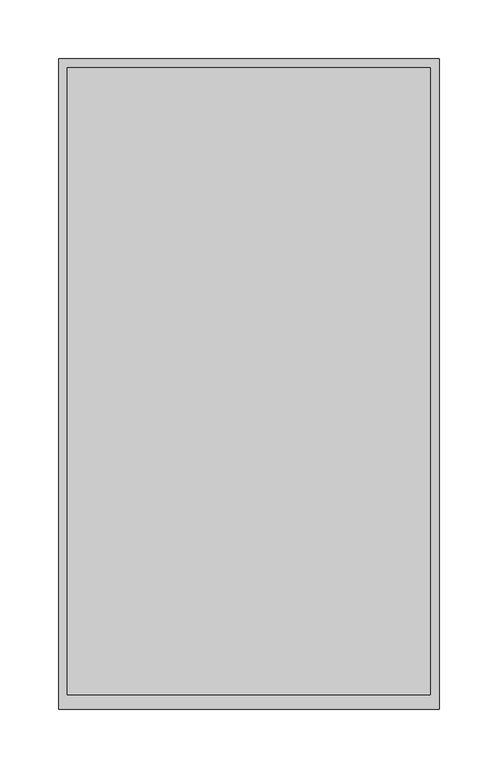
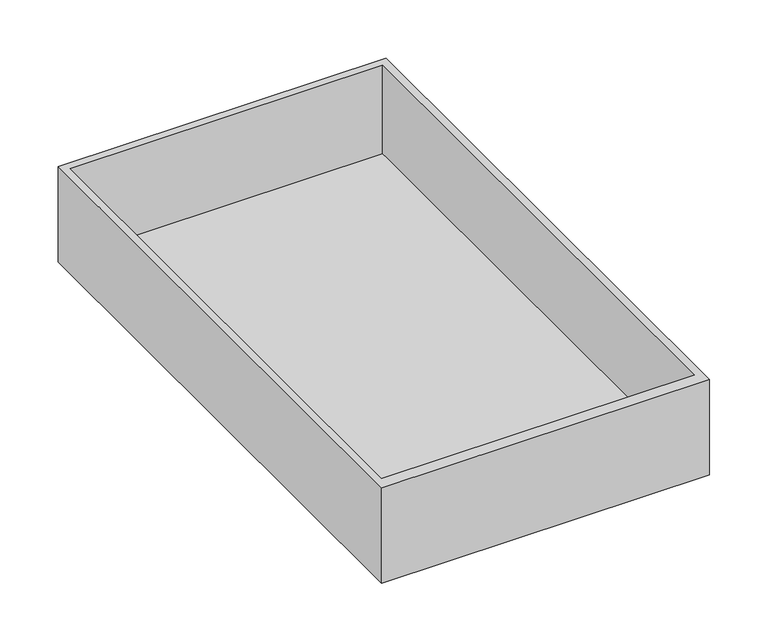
"""IFC4 building model written with IfcOpenShell, lengths in millimetres: proxy geometry, Modelos genéricos 122 : Modelos genéricos 29."""

from ifc_helpers import new_model, si_unit, origin, place, context, project, spatial, faceted_brep, source, transform, mapped, element, save


def generic_models_ed023915(model_context):
    return source(origin(), model_context, "Body", "Brep", [
        faceted_brep([(-17643.3916731, -6352.0417559, 1086.3966943), (-17643.3916731, -6907.9992451, 1086.3966943), (-17318.3916731, -6907.9992451, 1086.3966943), (-17318.3916731, -6352.0417559, 1086.3966943), (-17636.0488006, -6895.2456916, 1086.3966943), (-17636.0488006, -6359.9029176, 1086.3966943), (-17326.0488006, -6359.9029176, 1086.3966943), (-17326.0488006, -6895.2456916, 1086.3966943), (-17643.3916731, -6352.0417559, 986.3966943), (-17318.3916731, -6352.0417559, 986.3966943), (-17318.3916731, -6907.9992451, 986.3966943), (-17643.3916731, -6907.9992451, 986.3966943), (-17636.0488006, -6895.2456916, 993.8583576), (-17636.0488006, -6359.9029176, 993.8583576), (-17326.0488006, -6895.2456916, 993.8583576), (-17326.0488006, -6359.9029176, 993.8583576)], [[[0, 1, 2, 3], [4, 5, 6, 7]], [[8, 9, 10, 11]], [[1, 0, 8, 11]], [[2, 1, 11, 10]], [[3, 2, 10, 9]], [[0, 3, 9, 8]], [[12, 13, 5, 4]], [[14, 12, 4, 7]], [[15, 14, 7, 6]], [[13, 15, 6, 5]], [[13, 12, 14, 15]]]),
    ])


if __name__ == "__main__":
    model = new_model("IFC4")
    model_context = context("Model", 3, world=origin())
    ifc_project = project(units=[si_unit("LENGTHUNIT", "METRE", prefix="MILLI")], contexts=[model_context])
    site = spatial("IfcSite", under=ifc_project)
    building = spatial("IfcBuilding", under=site)
    placement = place(None, origin())
    generic_models_shape = generic_models_ed023915(model_context)
    element("IfcBuildingElementProxy", 1, Name="Modelos genéricos 122 : Modelos genéricos 29", ObjectType="Modelos genéricos 122 : Modelos genéricos 29", at=placement, inside=building, context=model_context, shape_type="MappedRepresentation", body=[
        mapped(generic_models_shape, transform((0.0, 0.0, 0.0), x_axis=(1.0, 0.0, 0.0), y_axis=(0.0, 1.0, 0.0), z_axis=(0.0, 0.0, 1.0))),
    ])
    save(model, "model.ifc")
